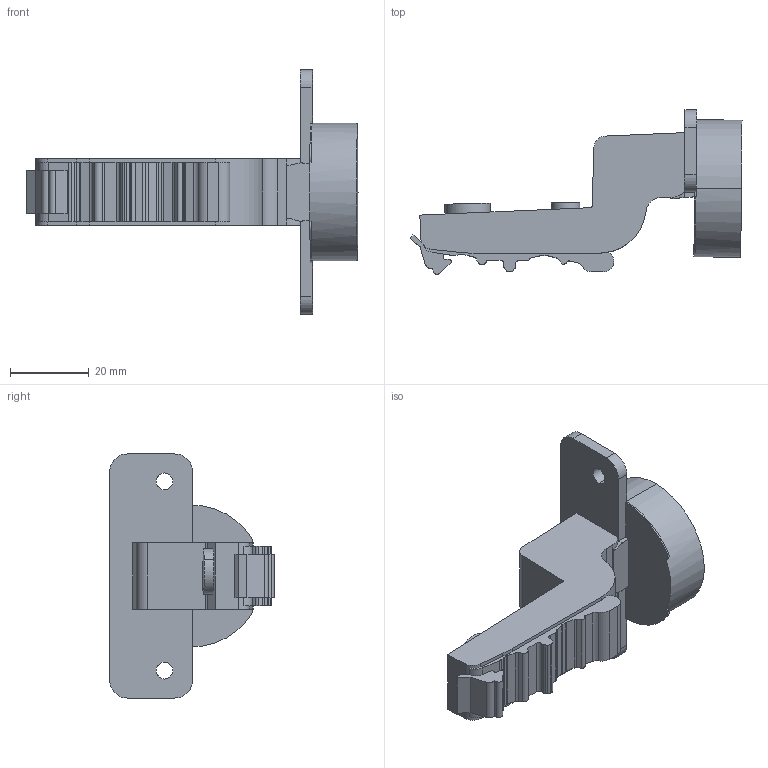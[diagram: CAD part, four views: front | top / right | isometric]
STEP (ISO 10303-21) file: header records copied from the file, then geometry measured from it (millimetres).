
FILE_DESCRIPTION (( 'STEP AP203' ), '1' );
FILE_NAME ('C82C676FA-DTC 3D close.STEP', '2024-09-06T05:32:17', ( '微软用户' ), ( '微软中国' ), 'SwSTEP 2.0', 'SolidWorks 2021', '' );
FILE_SCHEMA (( 'CONFIG_CONTROL_DESIGN' ));
Length unit declared in the file: millimetre
Products named in the file (1): C82C676FA-DTC 3D close
Bounding box: 84.27 x 41.73 x 61.96 mm (x, y, z)
Volume: 33904.2 mm3; surface area: 10591 mm2
Topology: 1 solids, 1 shells, 136 faces, 392 edges, 260 vertices
Faces by surface type: cylinder 63, plane 63, bspline 8, torus 2
Entity records: 4784 total; most frequent: CARTESIAN_POINT 1102, ORIENTED_EDGE 784, DIRECTION 748, EDGE_CURVE 392, VERTEX_POINT 260, AXIS2_PLACEMENT_3D 259, LINE 230, VECTOR 230
